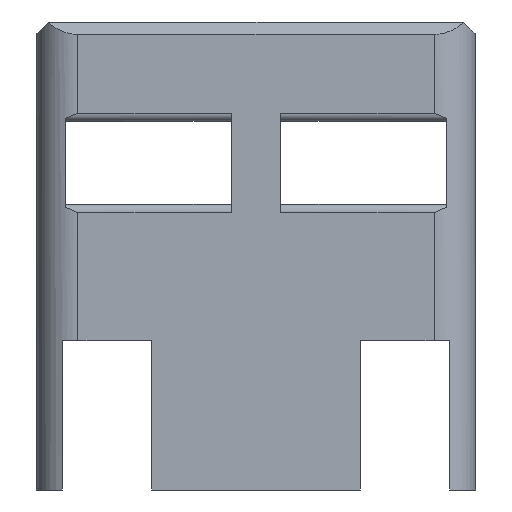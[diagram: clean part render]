
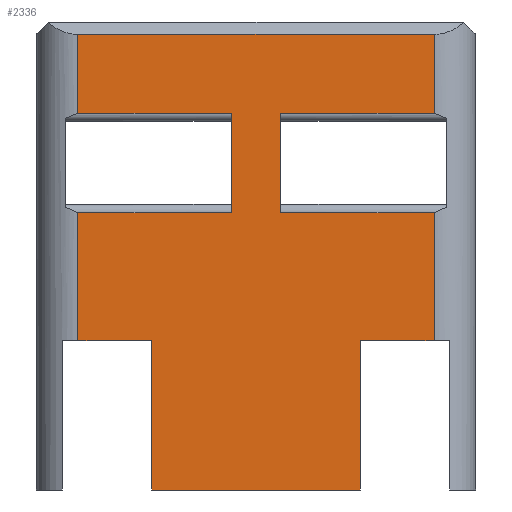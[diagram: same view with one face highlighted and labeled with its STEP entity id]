
A CAD part, left-side view. The second image highlights one B-rep face of the part: STEP entity #2336.
In plain terms, the highlighted planar face has unit normal (-1, 0, 0).
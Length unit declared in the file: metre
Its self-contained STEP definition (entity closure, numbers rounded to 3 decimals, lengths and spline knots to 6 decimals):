
#344=ORIENTED_EDGE('',*,*,#1038,.T.);
#345=ORIENTED_EDGE('',*,*,#1039,.T.);
#346=ORIENTED_EDGE('',*,*,#1040,.T.);
#347=ORIENTED_EDGE('',*,*,#1041,.F.);
#348=ORIENTED_EDGE('',*,*,#1042,.T.);
#349=ORIENTED_EDGE('',*,*,#1043,.T.);
#350=ORIENTED_EDGE('',*,*,#1044,.T.);
#351=ORIENTED_EDGE('',*,*,#1045,.F.);
#352=ORIENTED_EDGE('',*,*,#917,.F.);
#353=ORIENTED_EDGE('',*,*,#1046,.T.);
#354=ORIENTED_EDGE('',*,*,#1047,.F.);
#355=ORIENTED_EDGE('',*,*,#1048,.T.);
#356=ORIENTED_EDGE('',*,*,#1049,.T.);
#357=ORIENTED_EDGE('',*,*,#1050,.T.);
#358=ORIENTED_EDGE('',*,*,#1051,.T.);
#359=ORIENTED_EDGE('',*,*,#1052,.T.);
#917=EDGE_CURVE('',#1274,#1275,#1516,.T.);
#1038=EDGE_CURVE('',#1376,#1377,#1610,.T.);
#1039=EDGE_CURVE('',#1377,#1378,#1611,.F.);
#1040=EDGE_CURVE('',#1378,#1379,#1612,.T.);
#1041=EDGE_CURVE('',#1380,#1379,#1613,.T.);
#1042=EDGE_CURVE('',#1380,#1381,#1614,.F.);
#1043=EDGE_CURVE('',#1381,#1382,#1615,.F.);
#1044=EDGE_CURVE('',#1382,#1383,#1616,.T.);
#1045=EDGE_CURVE('',#1275,#1383,#1617,.T.);
#1046=EDGE_CURVE('',#1274,#1384,#1618,.T.);
#1047=EDGE_CURVE('',#1385,#1384,#1619,.T.);
#1048=EDGE_CURVE('',#1385,#1386,#1620,.T.);
#1049=EDGE_CURVE('',#1386,#1387,#1621,.F.);
#1050=EDGE_CURVE('',#1387,#1388,#1622,.T.);
#1051=EDGE_CURVE('',#1388,#1389,#1623,.T.);
#1052=EDGE_CURVE('',#1389,#1376,#1624,.T.);
#1274=VERTEX_POINT('',#3434);
#1275=VERTEX_POINT('',#3436);
#1376=VERTEX_POINT('',#3672);
#1377=VERTEX_POINT('',#3673);
#1378=VERTEX_POINT('',#3675);
#1379=VERTEX_POINT('',#3677);
#1380=VERTEX_POINT('',#3679);
#1381=VERTEX_POINT('',#3681);
#1382=VERTEX_POINT('',#3683);
#1383=VERTEX_POINT('',#3685);
#1384=VERTEX_POINT('',#3688);
#1385=VERTEX_POINT('',#3690);
#1386=VERTEX_POINT('',#3692);
#1387=VERTEX_POINT('',#3694);
#1388=VERTEX_POINT('',#3696);
#1389=VERTEX_POINT('',#3698);
#1516=LINE('',#3435,#1780);
#1610=LINE('',#3671,#1874);
#1611=LINE('',#3674,#1875);
#1612=LINE('',#3676,#1876);
#1613=LINE('',#3678,#1877);
#1614=LINE('',#3680,#1878);
#1615=LINE('',#3682,#1879);
#1616=LINE('',#3684,#1880);
#1617=LINE('',#3686,#1881);
#1618=LINE('',#3687,#1882);
#1619=LINE('',#3689,#1883);
#1620=LINE('',#3691,#1884);
#1621=LINE('',#3693,#1885);
#1622=LINE('',#3695,#1886);
#1623=LINE('',#3697,#1887);
#1624=LINE('',#3699,#1888);
#1780=VECTOR('',#2717,1.);
#1874=VECTOR('',#2893,1.);
#1875=VECTOR('',#2894,1.);
#1876=VECTOR('',#2895,1.);
#1877=VECTOR('',#2896,1.);
#1878=VECTOR('',#2897,1.);
#1879=VECTOR('',#2898,1.);
#1880=VECTOR('',#2899,1.);
#1881=VECTOR('',#2900,1.);
#1882=VECTOR('',#2901,1.);
#1883=VECTOR('',#2902,1.);
#1884=VECTOR('',#2903,1.);
#1885=VECTOR('',#2904,1.);
#1886=VECTOR('',#2905,1.);
#1887=VECTOR('',#2906,1.);
#1888=VECTOR('',#2907,1.);
#2018=EDGE_LOOP('',(#344,#345,#346,#347,#348,#349,#350,#351,#352,#353,#354,
#355,#356,#357,#358,#359));
#2140=FACE_BOUND('',#2018,.T.);
#2258=PLANE('',#2495);
#2336=ADVANCED_FACE('',(#2140),#2258,.T.);
#2495=AXIS2_PLACEMENT_3D('',#3670,#2891,#2892);
#2717=DIRECTION('',(0.,1.,0.));
#2891=DIRECTION('',(-1.,0.,0.));
#2892=DIRECTION('',(0.,-1.,0.));
#2893=DIRECTION('',(0.,1.,0.));
#2894=DIRECTION('',(0.,0.,1.));
#2895=DIRECTION('',(0.,-1.,0.));
#2896=DIRECTION('',(0.,0.,1.));
#2897=DIRECTION('',(0.,-1.,0.));
#2898=DIRECTION('',(0.,0.,1.));
#2899=DIRECTION('',(0.,-1.,0.));
#2900=DIRECTION('',(0.,0.,1.));
#2901=DIRECTION('',(0.,0.,1.));
#2902=DIRECTION('',(0.,1.,0.));
#2903=DIRECTION('',(0.,0.,1.));
#2904=DIRECTION('',(0.,-1.,0.));
#2905=DIRECTION('',(0.,0.,1.));
#2906=DIRECTION('',(0.,-1.,0.));
#2907=DIRECTION('',(0.,0.,1.));
#3434=CARTESIAN_POINT('',(-0.05,-0.0126,0.));
#3435=CARTESIAN_POINT('',(-0.05,0.,0.));
#3436=CARTESIAN_POINT('',(-0.05,0.0126,0.));
#3670=CARTESIAN_POINT('',(-0.05,0.,-0.000002));
#3671=CARTESIAN_POINT('',(-0.05,0.,0.055));
#3672=CARTESIAN_POINT('',(-0.05,-0.0215,0.055));
#3673=CARTESIAN_POINT('',(-0.05,0.0215,0.055));
#3674=CARTESIAN_POINT('',(-0.05,0.0215,-0.000002));
#3675=CARTESIAN_POINT('',(-0.05,0.0215,0.0455));
#3676=CARTESIAN_POINT('',(-0.05,0.003,0.0455));
#3677=CARTESIAN_POINT('',(-0.05,0.003,0.0455));
#3678=CARTESIAN_POINT('',(-0.05,0.003,0.0345));
#3679=CARTESIAN_POINT('',(-0.05,0.003,0.0335));
#3680=CARTESIAN_POINT('',(-0.05,0.,0.0335));
#3681=CARTESIAN_POINT('',(-0.05,0.0215,0.0335));
#3682=CARTESIAN_POINT('',(-0.05,0.0215,-0.000002));
#3683=CARTESIAN_POINT('',(-0.05,0.0215,0.018));
#3684=CARTESIAN_POINT('',(-0.05,0.018,0.018));
#3685=CARTESIAN_POINT('',(-0.05,0.0126,0.018));
#3686=CARTESIAN_POINT('',(-0.05,0.0126,0.009));
#3687=CARTESIAN_POINT('',(-0.05,-0.0126,0.009));
#3688=CARTESIAN_POINT('',(-0.05,-0.0126,0.018));
#3689=CARTESIAN_POINT('',(-0.05,-0.018,0.018));
#3690=CARTESIAN_POINT('',(-0.05,-0.0215,0.018));
#3691=CARTESIAN_POINT('',(-0.05,-0.0215,0.055));
#3692=CARTESIAN_POINT('',(-0.05,-0.0215,0.0335));
#3693=CARTESIAN_POINT('',(-0.05,0.,0.0335));
#3694=CARTESIAN_POINT('',(-0.05,-0.003,0.0335));
#3695=CARTESIAN_POINT('',(-0.05,-0.003,0.0345));
#3696=CARTESIAN_POINT('',(-0.05,-0.003,0.0455));
#3697=CARTESIAN_POINT('',(-0.05,-0.023,0.0455));
#3698=CARTESIAN_POINT('',(-0.05,-0.0215,0.0455));
#3699=CARTESIAN_POINT('',(-0.05,-0.0215,0.055));
